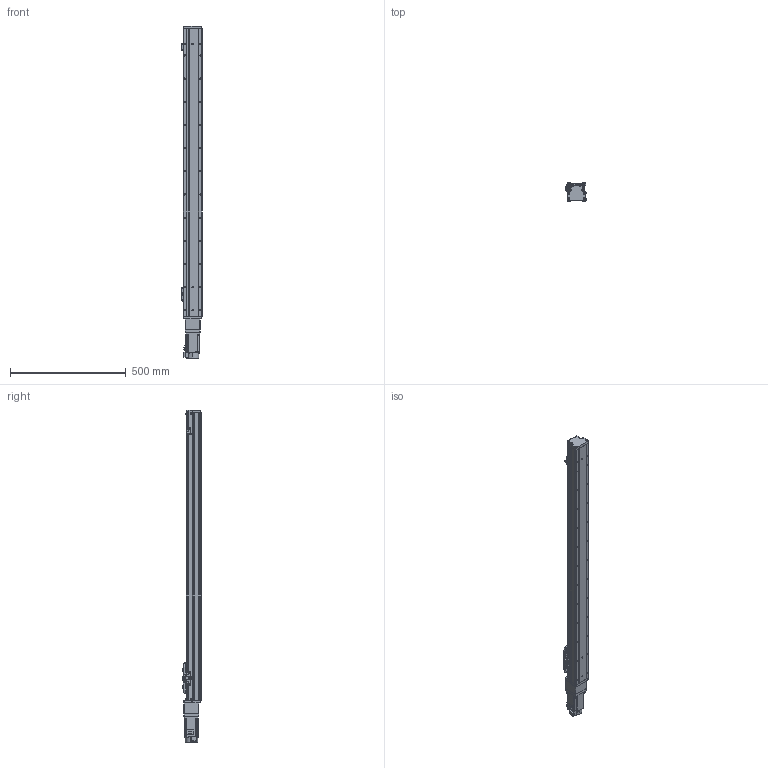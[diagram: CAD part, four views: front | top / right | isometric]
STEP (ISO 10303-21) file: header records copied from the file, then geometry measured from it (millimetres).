
FILE_DESCRIPTION (( 'STEP AP203' ), '1' );
FILE_NAME ('GTH8-1050-BC-M20-C4.step', '2022-09-23T00:53:38', ( '微软用户' ), ( '微软中国' ), 'SwSTEP 2.0', 'SolidWorks 2020', '' );
FILE_SCHEMA (( 'CONFIG_CONTROL_DESIGN' ));
Length unit declared in the file: millimetre
Products named in the file (19): CTHA86-013; GTH80-004; GTH80-028; CTHA86-027; GTH80-006; GTH50-024; hg-kn43j_-s100_; GTH80-013; GTH50-023; GTH8-1050-BC-M20-C4; GBT 70.3-M3℅6; GBT96.1-2002 3×0.8; GTH80-022; BTH-M3X5X6; GTH80-001_1050; GBT 70.1-M3℅6; CTHA86-006-1_CTHA86-006-2; GTH80-003; GBT 70.1-M4×16
Assembly tree (60 placements, depth 2):
  GTH8-1050-BC-M20-C4
    GTH80-001_1050
    GTH80-003
    GTH80-004
    GTH80-006
    GTH80-013
    GBT 70.3-M3℅6  x6
    GTH80-022
    GBT 70.1-M3℅6  x14
    GBT 70.1-M4×16  x8
    GTH80-028  x2
    GTH50-024  x3
    GTH50-023  x3
    GBT96.1-2002 3×0.8  x6
    BTH-M3X5X6  x8
    CTHA86-006-1_CTHA86-006-2
    CTHA86-013
    CTHA86-027
    hg-kn43j_-s100_
Bounding box: 86.9 x 78 x 1432.7 mm (x, y, z)
Volume: 6175100.3 mm3; surface area: 599150.5 mm2
Topology: 62 solids, 62 shells, 2251 faces, 5188 edges, 3163 vertices
Faces by surface type: plane 1173, cylinder 621, cone 285, torus 162, sphere 8, bspline 2
Entity records: 39556 total; most frequent: CARTESIAN_POINT 6527, DIRECTION 6506, ORIENTED_EDGE 5966, EDGE_CURVE 2983, AXIS2_PLACEMENT_3D 2284, VECTOR 1938, LINE 1938, VERTEX_POINT 1876
